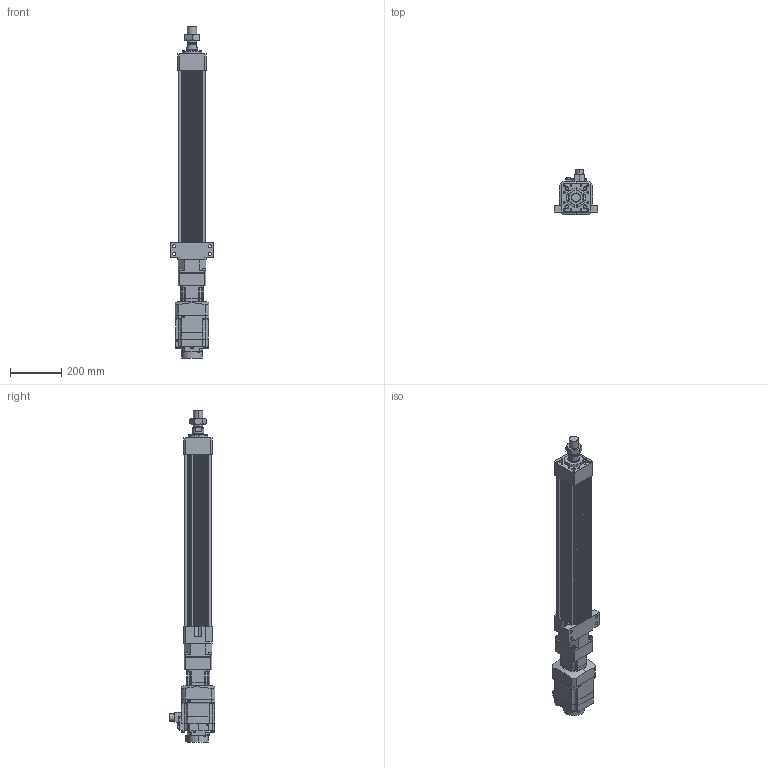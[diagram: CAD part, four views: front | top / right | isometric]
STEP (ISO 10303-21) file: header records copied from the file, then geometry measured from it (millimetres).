
FILE_DESCRIPTION (( 'STEP AP203' ), '1' );
FILE_NAME ('HES110NS(HS)-S500-W010G00-M-FFC.STEP', '2026-06-10T06:03:59', ( 'tms' ), ( '' ), 'SwSTEP 2.0', 'SolidWorks 2013', '' );
FILE_SCHEMA (( 'CONFIG_CONTROL_DESIGN' ));
Length unit declared in the file: millimetre
Products named in the file (8): HG-SR102B; HES110-M-ROD-500; HES110-FFC-500; HES110NS(HS)-S500-W010G00-M-FFC; AB0901; HES110-S-G90; M36X1.5P; AB0902
Assembly tree (7 placements, depth 2):
  HES110NS(HS)-S500-W010G00-M-FFC
    HES110-FFC-500
    HES110-M-ROD-500
    M36X1.5P
    HES110-S-G90
    AB0901
    AB0902
    HG-SR102B
Bounding box: 170 x 177.49 x 1293 mm (x, y, z)
Volume: 8600382.1 mm3; surface area: 1145839.7 mm2
Topology: 5 solids, 12 shells, 1228 faces, 3114 edges, 2013 vertices
Faces by surface type: cylinder 568, plane 554, cone 92, bspline 10, torus 4
Entity records: 39020 total; most frequent: CARTESIAN_POINT 7659, DIRECTION 6711, ORIENTED_EDGE 6152, EDGE_CURVE 3086, AXIS2_PLACEMENT_3D 2489, VERTEX_POINT 2013, LINE 1733, VECTOR 1733
